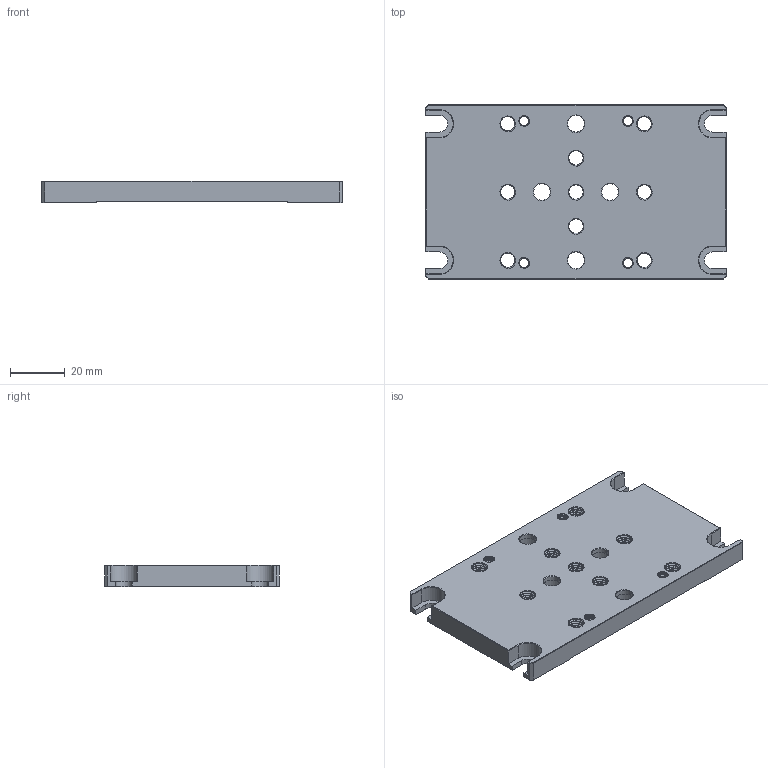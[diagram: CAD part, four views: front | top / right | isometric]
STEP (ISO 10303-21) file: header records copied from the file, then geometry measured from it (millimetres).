
FILE_DESCRIPTION((''),'2;1');
FILE_NAME('DP-100','2022-10-15T',('daizh'),(''),'CREO PARAMETRIC BY PTC INC, 2018360','CREO PARAMETRIC BY PTC INC, 2018360','');
FILE_SCHEMA(('CONFIG_CONTROL_DESIGN'));
Length unit declared in the file: millimetre
Products named in the file (1): DP-100
Bounding box: 110 x 64 x 8 mm (x, y, z)
Volume: 47529.8 mm3; surface area: 19001 mm2
Topology: 1 solids, 1 shells, 434 faces, 1214 edges, 786 vertices
Faces by surface type: cylinder 230, bspline 86, plane 72, cone 46
Entity records: 30308 total; most frequent: CARTESIAN_POINT 20454, ORIENTED_EDGE 2428, DIRECTION 1411, EDGE_CURVE 1214, VERTEX_POINT 786, B_SPLINE_CURVE_WITH_KNOTS 619, VECTOR 475, LINE 475
